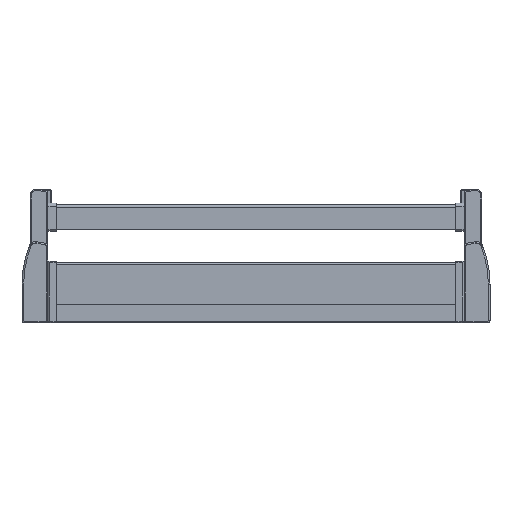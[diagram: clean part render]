
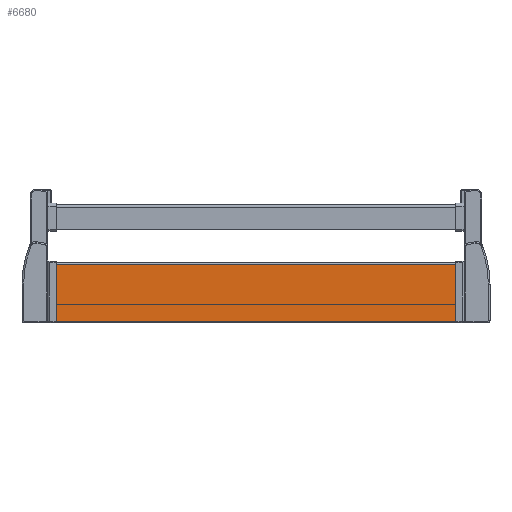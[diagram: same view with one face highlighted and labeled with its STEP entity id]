
A CAD part, top view. The second image highlights one B-rep face of the part: STEP entity #6680.
In plain terms, the highlighted planar face has unit normal (0, 0, 1).
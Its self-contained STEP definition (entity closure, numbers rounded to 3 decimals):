
#3447 = CARTESIAN_POINT ( 'NONE',  ( 238.8, -23., 1.4 ) ) ;
#3462 = CARTESIAN_POINT ( 'NONE',  ( 238.8, -92.5, 1.4 ) ) ;
#3463 = DIRECTION ( 'NONE',  ( 0., 1., 0. ) ) ;
#3464 = VECTOR ( 'NONE', #3463, 1000. ) ;
#3465 = CARTESIAN_POINT ( 'NONE',  ( 238.8, -92.5, 1.4 ) ) ;
#3466 = LINE ( 'NONE', #3465, #3464 ) ;
#3937 = PLANE ( 'NONE',  #4001 ) ;
#3938 = FACE_OUTER_BOUND ( 'NONE', #6681, .T. ) ;
#3944 = CARTESIAN_POINT ( 'NONE',  ( -238.8, -92.5, 1.4 ) ) ;
#3989 = DIRECTION ( 'NONE',  ( 0., 1., 0. ) ) ;
#3990 = VECTOR ( 'NONE', #3989, 1000. ) ;
#3991 = CARTESIAN_POINT ( 'NONE',  ( -238.8, -92.5, 1.4 ) ) ;
#3992 = LINE ( 'NONE', #3991, #3990 ) ;
#3993 = CARTESIAN_POINT ( 'NONE',  ( -238.8, -23., 1.4 ) ) ;
#3994 = DIRECTION ( 'NONE',  ( -1., 0., 0. ) ) ;
#3995 = VECTOR ( 'NONE', #3994, 1000. ) ;
#3996 = CARTESIAN_POINT ( 'NONE',  ( 312.556, -23., 1.4 ) ) ;
#3997 = LINE ( 'NONE', #3996, #3995 ) ;
#3998 = DIRECTION ( 'NONE',  ( 0., 1., 0. ) ) ;
#3999 = DIRECTION ( 'NONE',  ( 0., 0., -1. ) ) ;
#4000 = CARTESIAN_POINT ( 'NONE',  ( 312.556, -92.5, 1.4 ) ) ;
#4001 = AXIS2_PLACEMENT_3D ( 'NONE', #4000, #3999, #3998 ) ;
#4042 = DIRECTION ( 'NONE',  ( -1., 0., 0. ) ) ;
#4043 = VECTOR ( 'NONE', #4042, 1000. ) ;
#4044 = CARTESIAN_POINT ( 'NONE',  ( 312.556, -92.5, 1.4 ) ) ;
#4045 = LINE ( 'NONE', #4044, #4043 ) ;
#6384 = EDGE_CURVE ( 'NONE', #6386, #6398, #3466, .T. ) ;
#6386 = VERTEX_POINT ( 'NONE', #3462 ) ;
#6398 = VERTEX_POINT ( 'NONE', #3447 ) ;
#6676 = VERTEX_POINT ( 'NONE', #3944 ) ;
#6680 = ADVANCED_FACE ( 'NONE', ( #3938 ), #3937, .F. ) ;
#6681 = EDGE_LOOP ( 'NONE', ( #6682, #6683, #6684, #6688 ) ) ;
#6682 = ORIENTED_EDGE ( 'NONE', *, *, #6730, .F. ) ;
#6683 = ORIENTED_EDGE ( 'NONE', *, *, #6384, .T. ) ;
#6684 = ORIENTED_EDGE ( 'NONE', *, *, #6686, .T. ) ;
#6686 = EDGE_CURVE ( 'NONE', #6398, #6687, #3997, .T. ) ;
#6687 = VERTEX_POINT ( 'NONE', #3993 ) ;
#6688 = ORIENTED_EDGE ( 'NONE', *, *, #6689, .F. ) ;
#6689 = EDGE_CURVE ( 'NONE', #6676, #6687, #3992, .T. ) ;
#6730 = EDGE_CURVE ( 'NONE', #6386, #6676, #4045, .T. ) ;
